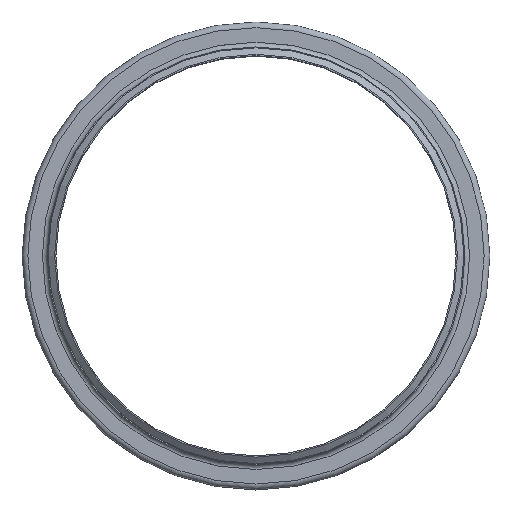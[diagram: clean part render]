
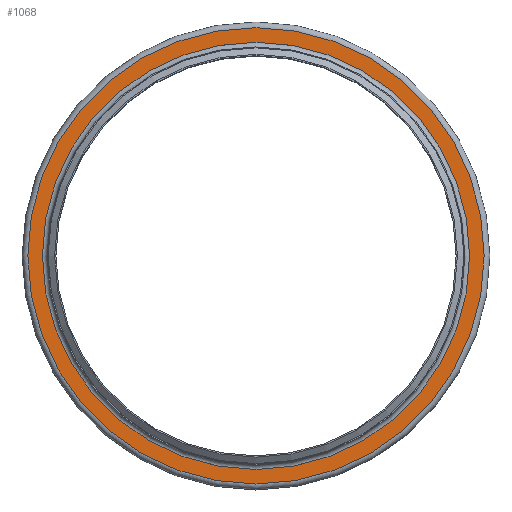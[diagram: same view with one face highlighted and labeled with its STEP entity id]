
A CAD part, top view. The second image highlights one B-rep face of the part: STEP entity #1068.
In plain terms, the highlighted planar face has unit normal (0, 0, 1).
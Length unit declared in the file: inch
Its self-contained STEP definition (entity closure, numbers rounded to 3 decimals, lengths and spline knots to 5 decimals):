
#102=FACE_BOUND('',#282,.T.);
#171=FACE_OUTER_BOUND('',#281,.T.);
#281=EDGE_LOOP('',(#824));
#282=EDGE_LOOP('',(#825));
#402=CIRCLE('',#1264,10.274);
#403=CIRCLE('',#1266,10.976);
#491=VERTEX_POINT('',#1935);
#492=VERTEX_POINT('',#1939);
#606=EDGE_CURVE('',#491,#491,#402,.T.);
#607=EDGE_CURVE('',#492,#492,#403,.T.);
#824=ORIENTED_EDGE('',*,*,#607,.F.);
#825=ORIENTED_EDGE('',*,*,#606,.T.);
#918=PLANE('',#1265);
#1068=ADVANCED_FACE('',(#171,#102),#918,.T.);
#1264=AXIS2_PLACEMENT_3D('',#1937,#1621,#1622);
#1265=AXIS2_PLACEMENT_3D('',#1938,#1623,#1624);
#1266=AXIS2_PLACEMENT_3D('',#1940,#1625,#1626);
#1621=DIRECTION('center_axis',(0.,0.,
-1.));
#1622=DIRECTION('ref_axis',(1.,0.,0.));
#1623=DIRECTION('center_axis',(0.,0.,
1.));
#1624=DIRECTION('ref_axis',(1.,0.,0.));
#1625=DIRECTION('center_axis',(0.,0.,
-1.));
#1626=DIRECTION('ref_axis',(1.,0.,0.));
#1935=CARTESIAN_POINT('',(10.274,0.,-1.726));
#1937=CARTESIAN_POINT('Origin',(0.,0.,
-1.726));
#1938=CARTESIAN_POINT('Origin',(0.,10.976,-1.726));
#1939=CARTESIAN_POINT('',(10.976,0.,-1.726));
#1940=CARTESIAN_POINT('Origin',(0.,0.,
-1.726));
